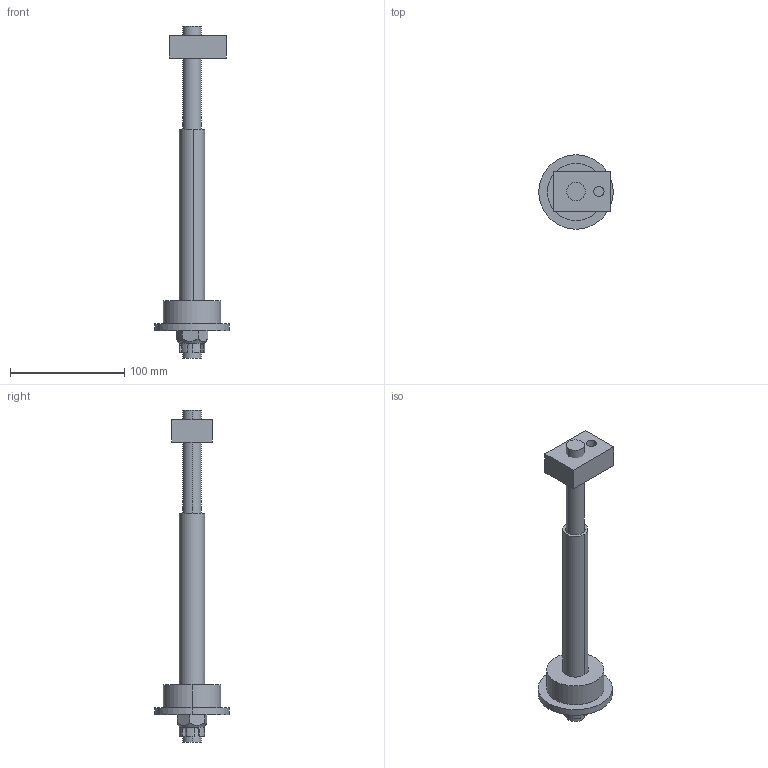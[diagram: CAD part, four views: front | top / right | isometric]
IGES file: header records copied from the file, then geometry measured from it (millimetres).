
Start section: START RECORD GO HERE.
Global section: file name: 740T-16.igs; native system: DASSAULT SYSTEMES CATIA V5 R20 - www.3ds.com; preprocessor: CATIA Version 5 Release 20 ; author: Utente; organization: NB04-ASUS; date: 20201027.195341; units: millimetre
Bounding box: 65 x 65 x 290 mm (x, y, z)
Surface area: 62260.3 mm2 (no closed solid volume)
Topology: 0 solids, 0 shells, 75 faces, 368 edges, 368 vertices
Faces by surface type: plane 39, revolution 36
